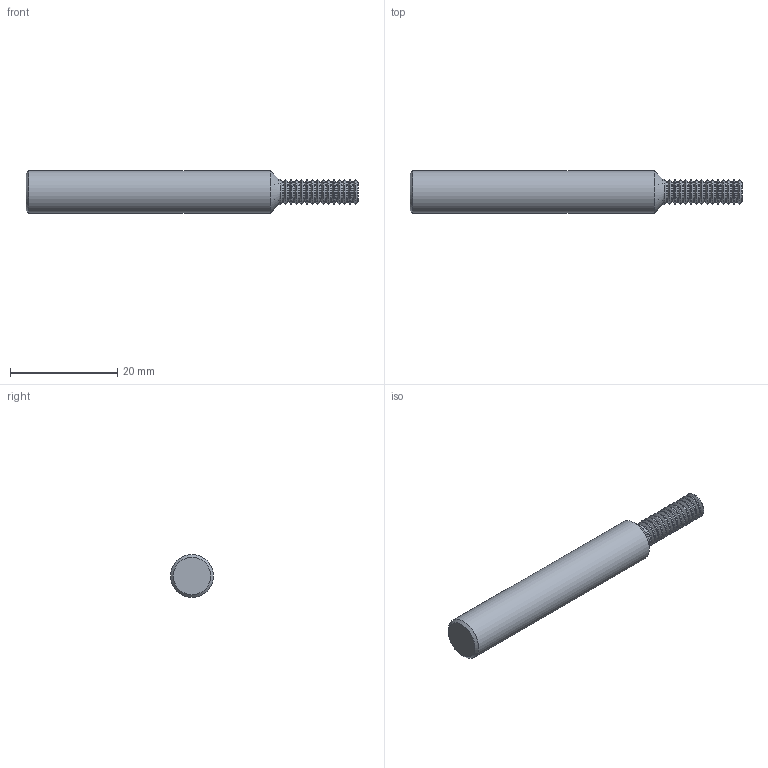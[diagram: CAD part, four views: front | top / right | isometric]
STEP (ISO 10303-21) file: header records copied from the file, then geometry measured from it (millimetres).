
FILE_DESCRIPTION(/* description */ (''),/* implementation_level */ '2;1');
FILE_NAME(/* name */ '00036016-TDM',/* time_stamp */ '2024-02-12T07:52:32+01:00',/* author */ (''),/* organization */ (''),/* preprocessor_version */ 'ST-DEVELOPER v16.5',/* originating_system */ 'HiCAD 2017 2201.0 Build 268',/* authorisation */ '');
FILE_SCHEMA (('AUTOMOTIVE_DESIGN { 1 0 10303 214 1 1 1 1 }'));
Length unit declared in the file: millimetre
Products named in the file (3): Root; ROTATIONSTEIL_0
Assembly tree (2 placements, depth 3):
  Root
    ROTATIONSTEIL_0
      ROTATIONSTEIL_0
Bounding box: 62 x 8 x 8 mm (x, y, z)
Volume: 2542.5 mm3; surface area: 1614.1 mm2
Topology: 2 solids, 2 shells, 96 faces, 189 edges, 97 vertices
Faces by surface type: cone 32, cylinder 31, torus 29, plane 4
Full cylindrical faces by diameter (mm): 3.732 x15, 4.8 x15, 8 x1
Entity records: 2904 total; most frequent: DIRECTION 388, CARTESIAN_POINT 288, AXIS2_PLACEMENT_3D 194, PRESENTATION_STYLE_ASSIGNMENT 190, COLOUR_RGB 190, DRAUGHTING_PRE_DEFINED_CURVE_FONT 188, CURVE_STYLE 188, OVER_RIDING_STYLED_ITEM 188
